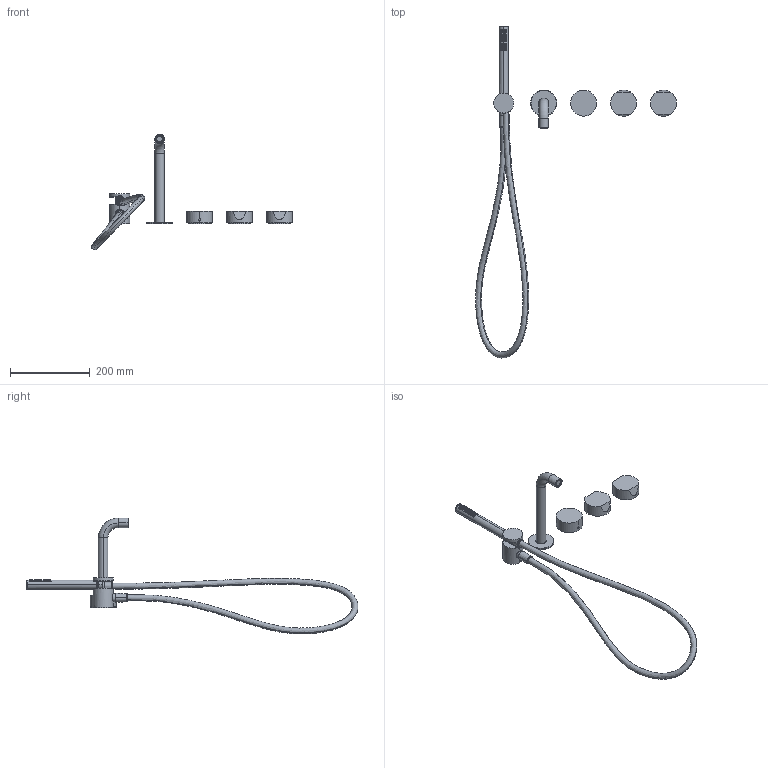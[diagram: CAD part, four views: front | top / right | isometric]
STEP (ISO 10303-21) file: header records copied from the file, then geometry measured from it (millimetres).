
FILE_DESCRIPTION((''),'2;1');
FILE_NAME('27000A819B000CX0_SW0002','2024-06-04T09:50:52',('matteo.follador'),(''),'CREO PARAMETRIC BY PTC INC, 2022424','CREO PARAMETRIC BY PTC INC, 2022424','');
FILE_SCHEMA(('AUTOMOTIVE_DESIGN { 1 0 10303 214 1 1 1 1 }'));
Length unit declared in the file: millimetre
Products named in the file (1): 27000A819B000CX0_SW0002
Bounding box: 503.22 x 831.4 x 289.92 mm (x, y, z)
Volume: 804555.4 mm3; surface area: 196207.5 mm2
Topology: 6 solids, 9 shells, 747 faces, 1846 edges, 1169 vertices
Faces by surface type: cylinder 208, cone 183, plane 141, torus 106, bspline 104, sphere 5
Entity records: 69298 total; most frequent: CARTESIAN_POINT 47631, ORIENTED_EDGE 3688, DIRECTION 2896, EDGE_CURVE 1844, AXIS2_PLACEMENT_3D 1202, VERTEX_POINT 1169, EDGE_LOOP 935, B_SPLINE_CURVE_WITH_KNOTS 816
